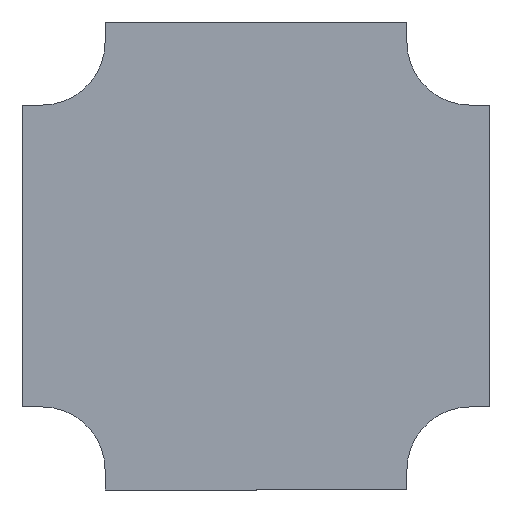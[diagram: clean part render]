
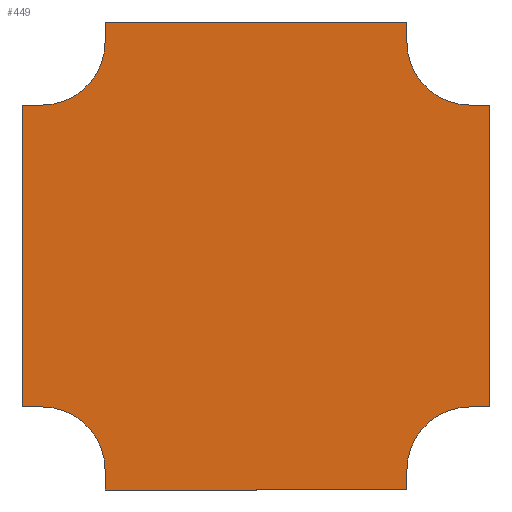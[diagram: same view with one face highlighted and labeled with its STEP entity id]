
A CAD part, front view. The second image highlights one B-rep face of the part: STEP entity #449.
In plain terms, the highlighted planar face has unit normal (0, -1, 0).
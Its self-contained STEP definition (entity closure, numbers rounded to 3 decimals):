
#59 = CARTESIAN_POINT ( 'NONE',  ( -725., 0., -850. ) ) ;
#79 = EDGE_CURVE ( 'NONE', #699, #1477, #1528, .T. ) ;
#88 = CARTESIAN_POINT ( 'NONE',  ( 0., 0., -125. ) ) ;
#95 = CARTESIAN_POINT ( 'NONE',  ( -725., 0., 0. ) ) ;
#153 = CARTESIAN_POINT ( 'NONE',  ( 0., 0., 0. ) ) ;
#156 = LINE ( 'NONE', #910, #2358 ) ;
#161 = CARTESIAN_POINT ( 'NONE',  ( 40., 0., -125. ) ) ;
#185 = EDGE_CURVE ( 'NONE', #2973, #1748, #1263, .T. ) ;
#308 = ORIENTED_EDGE ( 'NONE', *, *, #185, .F. ) ;
#316 = DIRECTION ( 'NONE',  ( 0., 0., -1. ) ) ;
#364 = DIRECTION ( 'NONE',  ( 0., -1., 0. ) ) ;
#374 = VECTOR ( 'NONE', #1816, 1000. ) ;
#392 = CARTESIAN_POINT ( 'NONE',  ( -725., 0., -890. ) ) ;
#412 = PLANE ( 'NONE',  #2774 ) ;
#439 = ORIENTED_EDGE ( 'NONE', *, *, #864, .F. ) ;
#446 = CIRCLE ( 'NONE', #761, 125. ) ;
#449 = ADVANCED_FACE ( 'NONE', ( #1873 ), #412, .T. ) ;
#468 = DIRECTION ( 'NONE',  ( 0., 0., 1. ) ) ;
#471 = EDGE_CURVE ( 'NONE', #1477, #3268, #1176, .T. ) ;
#486 = VECTOR ( 'NONE', #468, 1000. ) ;
#495 = VERTEX_POINT ( 'NONE', #3246 ) ;
#524 = ORIENTED_EDGE ( 'NONE', *, *, #79, .F. ) ;
#557 = ORIENTED_EDGE ( 'NONE', *, *, #2587, .F. ) ;
#574 = CARTESIAN_POINT ( 'NONE',  ( -890., 0., -725. ) ) ;
#594 = VECTOR ( 'NONE', #2063, 1000. ) ;
#618 = CARTESIAN_POINT ( 'NONE',  ( -850., 0., 0. ) ) ;
#639 = LINE ( 'NONE', #392, #2616 ) ;
#648 = VECTOR ( 'NONE', #1681, 1000. ) ;
#665 = CARTESIAN_POINT ( 'NONE',  ( -725., 0., 40. ) ) ;
#699 = VERTEX_POINT ( 'NONE', #2846 ) ;
#710 = VECTOR ( 'NONE', #1170, 1000. ) ;
#719 = VERTEX_POINT ( 'NONE', #88 ) ;
#761 = AXIS2_PLACEMENT_3D ( 'NONE', #1523, #1476, #2494 ) ;
#790 = CARTESIAN_POINT ( 'NONE',  ( 0., 0., -125. ) ) ;
#801 = DIRECTION ( 'NONE',  ( 1., 0., 0. ) ) ;
#802 = AXIS2_PLACEMENT_3D ( 'NONE', #2946, #1619, #2675 ) ;
#854 = LINE ( 'NONE', #665, #648 ) ;
#864 = EDGE_CURVE ( 'NONE', #1841, #2921, #905, .T. ) ;
#905 = CIRCLE ( 'NONE', #802, 125. ) ;
#910 = CARTESIAN_POINT ( 'NONE',  ( 40., 0., -125. ) ) ;
#911 = EDGE_CURVE ( 'NONE', #2583, #1841, #639, .T. ) ;
#965 = ORIENTED_EDGE ( 'NONE', *, *, #2901, .F. ) ;
#972 = VECTOR ( 'NONE', #1283, 1000. ) ;
#982 = VERTEX_POINT ( 'NONE', #1522 ) ;
#1157 = DIRECTION ( 'NONE',  ( 0., 0., 1. ) ) ;
#1166 = DIRECTION ( 'NONE',  ( 0., 0., -1. ) ) ;
#1170 = DIRECTION ( 'NONE',  ( -1., 0., 0. ) ) ;
#1176 = CIRCLE ( 'NONE', #1444, 125. ) ;
#1221 = EDGE_CURVE ( 'NONE', #2002, #1874, #156, .T. ) ;
#1261 = CARTESIAN_POINT ( 'NONE',  ( -125., 0., -850. ) ) ;
#1263 = LINE ( 'NONE', #1694, #1393 ) ;
#1277 = CARTESIAN_POINT ( 'NONE',  ( -850., 0., -125. ) ) ;
#1283 = DIRECTION ( 'NONE',  ( 0., 0., 1. ) ) ;
#1308 = CARTESIAN_POINT ( 'NONE',  ( 0., 0., -725. ) ) ;
#1353 = ORIENTED_EDGE ( 'NONE', *, *, #1566, .F. ) ;
#1393 = VECTOR ( 'NONE', #3005, 1000. ) ;
#1444 = AXIS2_PLACEMENT_3D ( 'NONE', #618, #2652, #1527 ) ;
#1476 = DIRECTION ( 'NONE',  ( 0., -1., 0. ) ) ;
#1477 = VERTEX_POINT ( 'NONE', #3072 ) ;
#1488 = ORIENTED_EDGE ( 'NONE', *, *, #1512, .F. ) ;
#1496 = ORIENTED_EDGE ( 'NONE', *, *, #3238, .F. ) ;
#1512 = EDGE_CURVE ( 'NONE', #719, #2002, #2802, .T. ) ;
#1522 = CARTESIAN_POINT ( 'NONE',  ( -725., 0., 40. ) ) ;
#1523 = CARTESIAN_POINT ( 'NONE',  ( 0., 0., 0. ) ) ;
#1527 = DIRECTION ( 'NONE',  ( 0., 0., 1. ) ) ;
#1528 = LINE ( 'NONE', #1277, #2194 ) ;
#1532 = CARTESIAN_POINT ( 'NONE',  ( -890., 0., -125. ) ) ;
#1538 = CARTESIAN_POINT ( 'NONE',  ( 0., 0., -850. ) ) ;
#1566 = EDGE_CURVE ( 'NONE', #2705, #699, #3086, .T. ) ;
#1619 = DIRECTION ( 'NONE',  ( 0., -1., 0. ) ) ;
#1622 = ORIENTED_EDGE ( 'NONE', *, *, #3058, .F. ) ;
#1666 = VECTOR ( 'NONE', #316, 1000. ) ;
#1681 = DIRECTION ( 'NONE',  ( 1., 0., 0. ) ) ;
#1694 = CARTESIAN_POINT ( 'NONE',  ( -125., 0., 40. ) ) ;
#1695 = CARTESIAN_POINT ( 'NONE',  ( -125., 0., 0. ) ) ;
#1748 = VERTEX_POINT ( 'NONE', #1695 ) ;
#1763 = VECTOR ( 'NONE', #2025, 1000. ) ;
#1780 = ORIENTED_EDGE ( 'NONE', *, *, #2697, .F. ) ;
#1798 = CARTESIAN_POINT ( 'NONE',  ( -725., 0., -890. ) ) ;
#1813 = VERTEX_POINT ( 'NONE', #1261 ) ;
#1816 = DIRECTION ( 'NONE',  ( -1., 0., 0. ) ) ;
#1841 = VERTEX_POINT ( 'NONE', #59 ) ;
#1843 = LINE ( 'NONE', #1857, #1666 ) ;
#1857 = CARTESIAN_POINT ( 'NONE',  ( -125., 0., -890. ) ) ;
#1873 = FACE_OUTER_BOUND ( 'NONE', #3012, .T. ) ;
#1874 = VERTEX_POINT ( 'NONE', #3094 ) ;
#1894 = ORIENTED_EDGE ( 'NONE', *, *, #2231, .F. ) ;
#1929 = DIRECTION ( 'NONE',  ( 0., 0., -1. ) ) ;
#1943 = CARTESIAN_POINT ( 'NONE',  ( -850., 0., -725. ) ) ;
#2002 = VERTEX_POINT ( 'NONE', #161 ) ;
#2025 = DIRECTION ( 'NONE',  ( 1., 0., 0. ) ) ;
#2063 = DIRECTION ( 'NONE',  ( -1., 0., 0. ) ) ;
#2194 = VECTOR ( 'NONE', #801, 1000. ) ;
#2206 = CARTESIAN_POINT ( 'NONE',  ( -850., 0., -725. ) ) ;
#2231 = EDGE_CURVE ( 'NONE', #1748, #719, #446, .T. ) ;
#2304 = CIRCLE ( 'NONE', #2727, 125. ) ;
#2358 = VECTOR ( 'NONE', #1929, 1000. ) ;
#2381 = CARTESIAN_POINT ( 'NONE',  ( -725., 0., -890. ) ) ;
#2413 = ORIENTED_EDGE ( 'NONE', *, *, #2941, .F. ) ;
#2439 = LINE ( 'NONE', #2206, #710 ) ;
#2450 = ORIENTED_EDGE ( 'NONE', *, *, #911, .F. ) ;
#2472 = CARTESIAN_POINT ( 'NONE',  ( -125., 0., -890. ) ) ;
#2494 = DIRECTION ( 'NONE',  ( 0., 0., -1. ) ) ;
#2583 = VERTEX_POINT ( 'NONE', #1798 ) ;
#2587 = EDGE_CURVE ( 'NONE', #495, #1813, #2304, .T. ) ;
#2616 = VECTOR ( 'NONE', #1157, 1000. ) ;
#2652 = DIRECTION ( 'NONE',  ( 0., -1., 0. ) ) ;
#2659 = ORIENTED_EDGE ( 'NONE', *, *, #2692, .F. ) ;
#2675 = DIRECTION ( 'NONE',  ( 0., 0., -1. ) ) ;
#2692 = EDGE_CURVE ( 'NONE', #1874, #495, #2844, .T. ) ;
#2697 = EDGE_CURVE ( 'NONE', #1813, #2900, #1843, .T. ) ;
#2705 = VERTEX_POINT ( 'NONE', #574 ) ;
#2707 = ORIENTED_EDGE ( 'NONE', *, *, #471, .F. ) ;
#2727 = AXIS2_PLACEMENT_3D ( 'NONE', #1538, #2807, #3275 ) ;
#2766 = LINE ( 'NONE', #2803, #486 ) ;
#2774 = AXIS2_PLACEMENT_3D ( 'NONE', #153, #364, #1166 ) ;
#2802 = LINE ( 'NONE', #790, #1763 ) ;
#2803 = CARTESIAN_POINT ( 'NONE',  ( -725., 0., 40. ) ) ;
#2807 = DIRECTION ( 'NONE',  ( 0., -1., 0. ) ) ;
#2819 = LINE ( 'NONE', #2381, #594 ) ;
#2844 = LINE ( 'NONE', #1308, #374 ) ;
#2846 = CARTESIAN_POINT ( 'NONE',  ( -890., 0., -125. ) ) ;
#2900 = VERTEX_POINT ( 'NONE', #2472 ) ;
#2901 = EDGE_CURVE ( 'NONE', #2921, #2705, #2439, .T. ) ;
#2921 = VERTEX_POINT ( 'NONE', #1943 ) ;
#2941 = EDGE_CURVE ( 'NONE', #3268, #982, #2766, .T. ) ;
#2946 = CARTESIAN_POINT ( 'NONE',  ( -850., 0., -850. ) ) ;
#2973 = VERTEX_POINT ( 'NONE', #3024 ) ;
#3005 = DIRECTION ( 'NONE',  ( 0., 0., -1. ) ) ;
#3012 = EDGE_LOOP ( 'NONE', ( #1496, #2413, #2707, #524, #1353, #965, #439, #2450, #1622, #1780, #557, #2659, #3139, #1488, #1894, #308 ) ) ;
#3024 = CARTESIAN_POINT ( 'NONE',  ( -125., 0., 40. ) ) ;
#3058 = EDGE_CURVE ( 'NONE', #2900, #2583, #2819, .T. ) ;
#3072 = CARTESIAN_POINT ( 'NONE',  ( -850., 0., -125. ) ) ;
#3086 = LINE ( 'NONE', #1532, #972 ) ;
#3094 = CARTESIAN_POINT ( 'NONE',  ( 40., 0., -725. ) ) ;
#3139 = ORIENTED_EDGE ( 'NONE', *, *, #1221, .F. ) ;
#3238 = EDGE_CURVE ( 'NONE', #982, #2973, #854, .T. ) ;
#3246 = CARTESIAN_POINT ( 'NONE',  ( 0., 0., -725. ) ) ;
#3268 = VERTEX_POINT ( 'NONE', #95 ) ;
#3275 = DIRECTION ( 'NONE',  ( 0., 0., 1. ) ) ;
